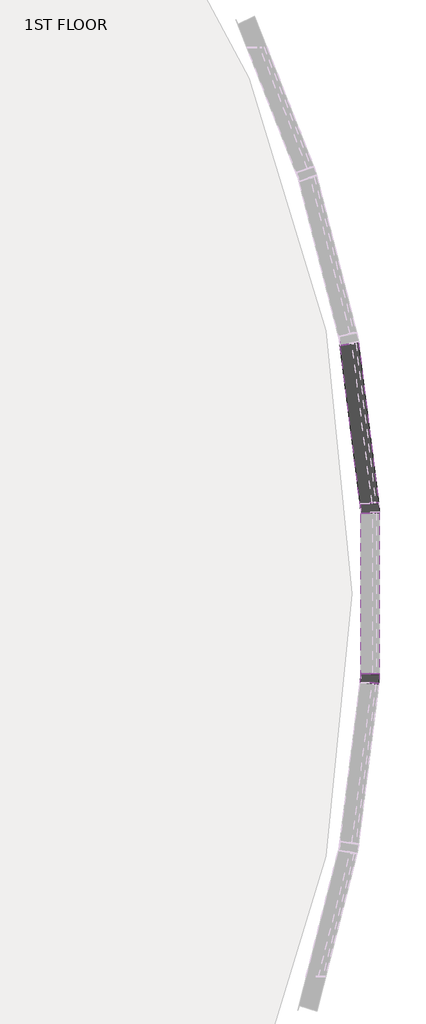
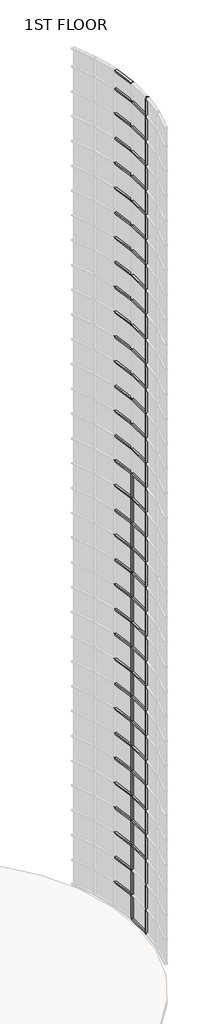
# One storey, part 15 of 17: 118 members.
"""IFC4 building model written with IfcOpenShell, lengths in millimetres."""

from ifc_helpers import new_model, si_unit, origin, place, context, project, spatial, transform, mapped, element, save
from components import member_56cb0dcd, member_0c249660, member_2b49869a, member_410c6227

model = new_model("IFC4")

# Units and contexts
model_context = context("Model", 3, world=origin())
ifc_project = project(units=[si_unit("LENGTHUNIT", "METRE", prefix="MILLI")], contexts=[model_context])

# Site, building, storey
site = spatial("IfcSite", under=ifc_project)
building = spatial("IfcBuilding", under=site)
storey = spatial("IfcBuildingStorey", under=building, Name="1ST FLOOR", Elevation=4572.0)

# Members
placement = place(None, origin())
member_shape = member_56cb0dcd(model_context)
element("IfcMember", 1, ObjectType="Rectangular Mullion : 2.5\" x 5\" rectangular", at=placement, inside=storey, context=model_context, shape_type="MappedRepresentation", body=[
    mapped(member_shape, transform((48251.7655333, 17531.7436786, 45720.0), x_axis=(0.0, 0.0, 1.0), y_axis=(-0.9922024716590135, -0.12463649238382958, 0.0), z_axis=(0.12463649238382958, -0.9922024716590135, 0.0))),
])
element("IfcMember", 2, ObjectType="Rectangular Mullion : 2.5\" x 5\" rectangular", at=placement, inside=storey, context=model_context, shape_type="MappedRepresentation", body=[
    mapped(member_shape, transform((48255.7227419, 17468.4912502, 4572.0), x_axis=(0.0, 0.0, -1.0), y_axis=(-1.0, 0.0, 0.0), z_axis=(0.0, 1.0, 0.0))),
])
member_2_shape = member_0c249660(model_context)
element("IfcMember", 3, ObjectType="Rectangular Mullion : 2.5\" x 5\" rectangular", at=placement, inside=storey, context=model_context, shape_type="MappedRepresentation", body=[
    mapped(member_2_shape, transform((48251.7655333, 17531.7436786, 5791.2), x_axis=(0.0, 0.0, 1.0), y_axis=(-0.9922024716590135, -0.12463649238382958, 0.0), z_axis=(0.12463649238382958, -0.9922024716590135, 0.0))),
])
element("IfcMember", 4, ObjectType="Rectangular Mullion : 2.5\" x 5\" rectangular", at=placement, inside=storey, context=model_context, shape_type="MappedRepresentation", body=[
    mapped(member_2_shape, transform((48251.7655333, 17531.7436786, 7010.4), x_axis=(0.0, 0.0, 1.0), y_axis=(-0.9922024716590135, -0.12463649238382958, 0.0), z_axis=(0.12463649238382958, -0.9922024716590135, 0.0))),
])
element("IfcMember", 5, ObjectType="Rectangular Mullion : 2.5\" x 5\" rectangular", at=placement, inside=storey, context=model_context, shape_type="MappedRepresentation", body=[
    mapped(member_2_shape, transform((48251.7655333, 17531.7436786, 8229.6), x_axis=(0.0, 0.0, 1.0), y_axis=(-0.9922024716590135, -0.12463649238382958, 0.0), z_axis=(0.12463649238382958, -0.9922024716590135, 0.0))),
])
element("IfcMember", 6, ObjectType="Rectangular Mullion : 2.5\" x 5\" rectangular", at=placement, inside=storey, context=model_context, shape_type="MappedRepresentation", body=[
    mapped(member_2_shape, transform((48255.7227419, 16370.6587498, 8229.6), x_axis=(0.0, 0.0, 1.0), y_axis=(-1.0, 0.0, 0.0), z_axis=(0.0, -1.0, 0.0))),
])
element("IfcMember", 7, ObjectType="Rectangular Mullion : 2.5\" x 5\" rectangular", at=placement, inside=storey, context=model_context, shape_type="MappedRepresentation", body=[
    mapped(member_2_shape, transform((48251.7655333, 17531.7436786, 9448.8), x_axis=(0.0, 0.0, 1.0), y_axis=(-0.9922024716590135, -0.12463649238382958, 0.0), z_axis=(0.12463649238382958, -0.9922024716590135, 0.0))),
])
element("IfcMember", 8, ObjectType="Rectangular Mullion : 2.5\" x 5\" rectangular", at=placement, inside=storey, context=model_context, shape_type="MappedRepresentation", body=[
    mapped(member_2_shape, transform((48255.7227419, 16370.6587498, 9448.8), x_axis=(0.0, 0.0, 1.0), y_axis=(-1.0, 0.0, 0.0), z_axis=(0.0, -1.0, 0.0))),
])
element("IfcMember", 9, ObjectType="Rectangular Mullion : 2.5\" x 5\" rectangular", at=placement, inside=storey, context=model_context, shape_type="MappedRepresentation", body=[
    mapped(member_2_shape, transform((48251.7655333, 17531.7436786, 10668.0), x_axis=(0.0, 0.0, 1.0), y_axis=(-0.9922024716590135, -0.12463649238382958, 0.0), z_axis=(0.12463649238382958, -0.9922024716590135, 0.0))),
])
element("IfcMember", 10, ObjectType="Rectangular Mullion : 2.5\" x 5\" rectangular", at=placement, inside=storey, context=model_context, shape_type="MappedRepresentation", body=[
    mapped(member_2_shape, transform((48255.7227419, 16370.6587498, 10668.0), x_axis=(0.0, 0.0, 1.0), y_axis=(-1.0, 0.0, 0.0), z_axis=(0.0, -1.0, 0.0))),
])
element("IfcMember", 11, ObjectType="Rectangular Mullion : 2.5\" x 5\" rectangular", at=placement, inside=storey, context=model_context, shape_type="MappedRepresentation", body=[
    mapped(member_2_shape, transform((48251.7655333, 17531.7436786, 11887.2), x_axis=(0.0, 0.0, 1.0), y_axis=(-0.9922024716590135, -0.12463649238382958, 0.0), z_axis=(0.12463649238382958, -0.9922024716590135, 0.0))),
])
element("IfcMember", 12, ObjectType="Rectangular Mullion : 2.5\" x 5\" rectangular", at=placement, inside=storey, context=model_context, shape_type="MappedRepresentation", body=[
    mapped(member_2_shape, transform((48255.7227419, 16370.6587498, 11887.2), x_axis=(0.0, 0.0, 1.0), y_axis=(-1.0, 0.0, 0.0), z_axis=(0.0, -1.0, 0.0))),
])
element("IfcMember", 13, ObjectType="Rectangular Mullion : 2.5\" x 5\" rectangular", at=placement, inside=storey, context=model_context, shape_type="MappedRepresentation", body=[
    mapped(member_2_shape, transform((48251.7655333, 17531.7436786, 13106.4), x_axis=(0.0, 0.0, 1.0), y_axis=(-0.9922024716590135, -0.12463649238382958, 0.0), z_axis=(0.12463649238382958, -0.9922024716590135, 0.0))),
])
element("IfcMember", 14, ObjectType="Rectangular Mullion : 2.5\" x 5\" rectangular", at=placement, inside=storey, context=model_context, shape_type="MappedRepresentation", body=[
    mapped(member_2_shape, transform((48255.7227419, 16370.6587498, 13106.4), x_axis=(0.0, 0.0, 1.0), y_axis=(-1.0, 0.0, 0.0), z_axis=(0.0, -1.0, 0.0))),
])
element("IfcMember", 15, ObjectType="Rectangular Mullion : 2.5\" x 5\" rectangular", at=placement, inside=storey, context=model_context, shape_type="MappedRepresentation", body=[
    mapped(member_2_shape, transform((48251.7655333, 17531.7436786, 14325.6), x_axis=(0.0, 0.0, 1.0), y_axis=(-0.9922024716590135, -0.12463649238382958, 0.0), z_axis=(0.12463649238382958, -0.9922024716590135, 0.0))),
])
element("IfcMember", 16, ObjectType="Rectangular Mullion : 2.5\" x 5\" rectangular", at=placement, inside=storey, context=model_context, shape_type="MappedRepresentation", body=[
    mapped(member_2_shape, transform((48255.7227419, 16370.6587498, 14325.6), x_axis=(0.0, 0.0, 1.0), y_axis=(-1.0, 0.0, 0.0), z_axis=(0.0, -1.0, 0.0))),
])
element("IfcMember", 17, ObjectType="Rectangular Mullion : 2.5\" x 5\" rectangular", at=placement, inside=storey, context=model_context, shape_type="MappedRepresentation", body=[
    mapped(member_2_shape, transform((48251.7655333, 17531.7436786, 15544.8), x_axis=(0.0, 0.0, 1.0), y_axis=(-0.9922024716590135, -0.12463649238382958, 0.0), z_axis=(0.12463649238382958, -0.9922024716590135, 0.0))),
])
element("IfcMember", 18, ObjectType="Rectangular Mullion : 2.5\" x 5\" rectangular", at=placement, inside=storey, context=model_context, shape_type="MappedRepresentation", body=[
    mapped(member_2_shape, transform((48255.7227419, 16370.6587498, 15544.8), x_axis=(0.0, 0.0, 1.0), y_axis=(-1.0, 0.0, 0.0), z_axis=(0.0, -1.0, 0.0))),
])
element("IfcMember", 19, ObjectType="Rectangular Mullion : 2.5\" x 5\" rectangular", at=placement, inside=storey, context=model_context, shape_type="MappedRepresentation", body=[
    mapped(member_2_shape, transform((48251.7655333, 17531.7436786, 16764.0), x_axis=(0.0, 0.0, 1.0), y_axis=(-0.9922024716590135, -0.12463649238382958, 0.0), z_axis=(0.12463649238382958, -0.9922024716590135, 0.0))),
])
element("IfcMember", 20, ObjectType="Rectangular Mullion : 2.5\" x 5\" rectangular", at=placement, inside=storey, context=model_context, shape_type="MappedRepresentation", body=[
    mapped(member_2_shape, transform((48255.7227419, 16370.6587498, 16764.0), x_axis=(0.0, 0.0, 1.0), y_axis=(-1.0, 0.0, 0.0), z_axis=(0.0, -1.0, 0.0))),
])
element("IfcMember", 21, ObjectType="Rectangular Mullion : 2.5\" x 5\" rectangular", at=placement, inside=storey, context=model_context, shape_type="MappedRepresentation", body=[
    mapped(member_2_shape, transform((48251.7655333, 17531.7436786, 17983.2), x_axis=(0.0, 0.0, 1.0), y_axis=(-0.9922024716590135, -0.12463649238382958, 0.0), z_axis=(0.12463649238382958, -0.9922024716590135, 0.0))),
])
element("IfcMember", 22, ObjectType="Rectangular Mullion : 2.5\" x 5\" rectangular", at=placement, inside=storey, context=model_context, shape_type="MappedRepresentation", body=[
    mapped(member_2_shape, transform((48255.7227419, 16370.6587498, 17983.2), x_axis=(0.0, 0.0, 1.0), y_axis=(-1.0, 0.0, 0.0), z_axis=(0.0, -1.0, 0.0))),
])
element("IfcMember", 23, ObjectType="Rectangular Mullion : 2.5\" x 5\" rectangular", at=placement, inside=storey, context=model_context, shape_type="MappedRepresentation", body=[
    mapped(member_2_shape, transform((48251.7655333, 17531.7436786, 19202.4), x_axis=(0.0, 0.0, 1.0), y_axis=(-0.9922024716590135, -0.12463649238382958, 0.0), z_axis=(0.12463649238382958, -0.9922024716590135, 0.0))),
])
element("IfcMember", 24, ObjectType="Rectangular Mullion : 2.5\" x 5\" rectangular", at=placement, inside=storey, context=model_context, shape_type="MappedRepresentation", body=[
    mapped(member_2_shape, transform((48255.7227419, 16370.6587498, 19202.4), x_axis=(0.0, 0.0, 1.0), y_axis=(-1.0, 0.0, 0.0), z_axis=(0.0, -1.0, 0.0))),
])
element("IfcMember", 25, ObjectType="Rectangular Mullion : 2.5\" x 5\" rectangular", at=placement, inside=storey, context=model_context, shape_type="MappedRepresentation", body=[
    mapped(member_2_shape, transform((48251.7655333, 17531.7436786, 20421.6), x_axis=(0.0, 0.0, 1.0), y_axis=(-0.9922024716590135, -0.12463649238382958, 0.0), z_axis=(0.12463649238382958, -0.9922024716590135, 0.0))),
])
element("IfcMember", 26, ObjectType="Rectangular Mullion : 2.5\" x 5\" rectangular", at=placement, inside=storey, context=model_context, shape_type="MappedRepresentation", body=[
    mapped(member_2_shape, transform((48255.7227419, 16370.6587498, 20421.6), x_axis=(0.0, 0.0, 1.0), y_axis=(-1.0, 0.0, 0.0), z_axis=(0.0, -1.0, 0.0))),
])
element("IfcMember", 27, ObjectType="Rectangular Mullion : 2.5\" x 5\" rectangular", at=placement, inside=storey, context=model_context, shape_type="MappedRepresentation", body=[
    mapped(member_2_shape, transform((48251.7655333, 17531.7436786, 21640.8), x_axis=(0.0, 0.0, 1.0), y_axis=(-0.9922024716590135, -0.12463649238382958, 0.0), z_axis=(0.12463649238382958, -0.9922024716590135, 0.0))),
])
element("IfcMember", 28, ObjectType="Rectangular Mullion : 2.5\" x 5\" rectangular", at=placement, inside=storey, context=model_context, shape_type="MappedRepresentation", body=[
    mapped(member_2_shape, transform((48255.7227419, 16370.6587498, 21640.8), x_axis=(0.0, 0.0, 1.0), y_axis=(-1.0, 0.0, 0.0), z_axis=(0.0, -1.0, 0.0))),
])
element("IfcMember", 29, ObjectType="Rectangular Mullion : 2.5\" x 5\" rectangular", at=placement, inside=storey, context=model_context, shape_type="MappedRepresentation", body=[
    mapped(member_2_shape, transform((48251.7655333, 17531.7436786, 22860.0), x_axis=(0.0, 0.0, 1.0), y_axis=(-0.9922024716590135, -0.12463649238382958, 0.0), z_axis=(0.12463649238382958, -0.9922024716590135, 0.0))),
])
element("IfcMember", 30, ObjectType="Rectangular Mullion : 2.5\" x 5\" rectangular", at=placement, inside=storey, context=model_context, shape_type="MappedRepresentation", body=[
    mapped(member_2_shape, transform((48255.7227419, 16370.6587498, 22860.0), x_axis=(0.0, 0.0, 1.0), y_axis=(-1.0, 0.0, 0.0), z_axis=(0.0, -1.0, 0.0))),
])
element("IfcMember", 31, ObjectType="Rectangular Mullion : 2.5\" x 5\" rectangular", at=placement, inside=storey, context=model_context, shape_type="MappedRepresentation", body=[
    mapped(member_2_shape, transform((48251.7655333, 17531.7436786, 24079.2), x_axis=(0.0, 0.0, 1.0), y_axis=(-0.9922024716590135, -0.12463649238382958, 0.0), z_axis=(0.12463649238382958, -0.9922024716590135, 0.0))),
])
element("IfcMember", 32, ObjectType="Rectangular Mullion : 2.5\" x 5\" rectangular", at=placement, inside=storey, context=model_context, shape_type="MappedRepresentation", body=[
    mapped(member_2_shape, transform((48255.7227419, 16370.6587498, 24079.2), x_axis=(0.0, 0.0, 1.0), y_axis=(-1.0, 0.0, 0.0), z_axis=(0.0, -1.0, 0.0))),
])
element("IfcMember", 33, ObjectType="Rectangular Mullion : 2.5\" x 5\" rectangular", at=placement, inside=storey, context=model_context, shape_type="MappedRepresentation", body=[
    mapped(member_2_shape, transform((48251.7655333, 17531.7436786, 25298.4), x_axis=(0.0, 0.0, 1.0), y_axis=(-0.9922024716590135, -0.12463649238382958, 0.0), z_axis=(0.12463649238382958, -0.9922024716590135, 0.0))),
])
element("IfcMember", 34, ObjectType="Rectangular Mullion : 2.5\" x 5\" rectangular", at=placement, inside=storey, context=model_context, shape_type="MappedRepresentation", body=[
    mapped(member_2_shape, transform((48255.7227419, 16370.6587498, 25298.4), x_axis=(0.0, 0.0, 1.0), y_axis=(-1.0, 0.0, 0.0), z_axis=(0.0, -1.0, 0.0))),
])
element("IfcMember", 35, ObjectType="Rectangular Mullion : 2.5\" x 5\" rectangular", at=placement, inside=storey, context=model_context, shape_type="MappedRepresentation", body=[
    mapped(member_2_shape, transform((48251.7655333, 17531.7436786, 26517.6), x_axis=(0.0, 0.0, 1.0), y_axis=(-0.9922024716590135, -0.12463649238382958, 0.0), z_axis=(0.12463649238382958, -0.9922024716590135, 0.0))),
])
element("IfcMember", 36, ObjectType="Rectangular Mullion : 2.5\" x 5\" rectangular", at=placement, inside=storey, context=model_context, shape_type="MappedRepresentation", body=[
    mapped(member_2_shape, transform((48255.7227419, 16370.6587498, 26517.6), x_axis=(0.0, 0.0, 1.0), y_axis=(-1.0, 0.0, 0.0), z_axis=(0.0, -1.0, 0.0))),
])
element("IfcMember", 37, ObjectType="Rectangular Mullion : 2.5\" x 5\" rectangular", at=placement, inside=storey, context=model_context, shape_type="MappedRepresentation", body=[
    mapped(member_2_shape, transform((48251.7655333, 17531.7436786, 27736.8), x_axis=(0.0, 0.0, 1.0), y_axis=(-0.9922024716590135, -0.12463649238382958, 0.0), z_axis=(0.12463649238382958, -0.9922024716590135, 0.0))),
])
element("IfcMember", 38, ObjectType="Rectangular Mullion : 2.5\" x 5\" rectangular", at=placement, inside=storey, context=model_context, shape_type="MappedRepresentation", body=[
    mapped(member_2_shape, transform((48255.7227419, 16370.6587498, 27736.8), x_axis=(0.0, 0.0, 1.0), y_axis=(-1.0, 0.0, 0.0), z_axis=(0.0, -1.0, 0.0))),
])
element("IfcMember", 39, ObjectType="Rectangular Mullion : 2.5\" x 5\" rectangular", at=placement, inside=storey, context=model_context, shape_type="MappedRepresentation", body=[
    mapped(member_2_shape, transform((48251.7655333, 17531.7436786, 28956.0), x_axis=(0.0, 0.0, 1.0), y_axis=(-0.9922024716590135, -0.12463649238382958, 0.0), z_axis=(0.12463649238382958, -0.9922024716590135, 0.0))),
])
element("IfcMember", 40, ObjectType="Rectangular Mullion : 2.5\" x 5\" rectangular", at=placement, inside=storey, context=model_context, shape_type="MappedRepresentation", body=[
    mapped(member_2_shape, transform((48255.7227419, 16370.6587498, 28956.0), x_axis=(0.0, 0.0, 1.0), y_axis=(-1.0, 0.0, 0.0), z_axis=(0.0, -1.0, 0.0))),
])
element("IfcMember", 41, ObjectType="Rectangular Mullion : 2.5\" x 5\" rectangular", at=placement, inside=storey, context=model_context, shape_type="MappedRepresentation", body=[
    mapped(member_2_shape, transform((48251.7655333, 17531.7436786, 30175.2), x_axis=(0.0, 0.0, 1.0), y_axis=(-0.9922024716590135, -0.12463649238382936, 0.0), z_axis=(0.12463649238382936, -0.9922024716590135, 0.0))),
])
element("IfcMember", 42, ObjectType="Rectangular Mullion : 2.5\" x 5\" rectangular", at=placement, inside=storey, context=model_context, shape_type="MappedRepresentation", body=[
    mapped(member_2_shape, transform((48255.7227419, 16370.6587498, 30175.2), x_axis=(0.0, 0.0, 1.0), y_axis=(-1.0, 0.0, 0.0), z_axis=(0.0, -1.0, 0.0))),
])
element("IfcMember", 43, ObjectType="Rectangular Mullion : 2.5\" x 5\" rectangular", at=placement, inside=storey, context=model_context, shape_type="MappedRepresentation", body=[
    mapped(member_2_shape, transform((48251.7655333, 17531.7436786, 31394.4), x_axis=(0.0, 0.0, 1.0), y_axis=(-0.9922024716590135, -0.12463649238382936, 0.0), z_axis=(0.12463649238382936, -0.9922024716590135, 0.0))),
])
element("IfcMember", 44, ObjectType="Rectangular Mullion : 2.5\" x 5\" rectangular", at=placement, inside=storey, context=model_context, shape_type="MappedRepresentation", body=[
    mapped(member_2_shape, transform((48255.7227419, 16370.6587498, 31394.4), x_axis=(0.0, 0.0, 1.0), y_axis=(-1.0, 0.0, 0.0), z_axis=(0.0, -1.0, 0.0))),
])
element("IfcMember", 45, ObjectType="Rectangular Mullion : 2.5\" x 5\" rectangular", at=placement, inside=storey, context=model_context, shape_type="MappedRepresentation", body=[
    mapped(member_2_shape, transform((48251.7655333, 17531.7436786, 32613.6), x_axis=(0.0, 0.0, 1.0), y_axis=(-0.9922024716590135, -0.12463649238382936, 0.0), z_axis=(0.12463649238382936, -0.9922024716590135, 0.0))),
])
element("IfcMember", 46, ObjectType="Rectangular Mullion : 2.5\" x 5\" rectangular", at=placement, inside=storey, context=model_context, shape_type="MappedRepresentation", body=[
    mapped(member_2_shape, transform((48255.7227419, 16370.6587498, 32613.6), x_axis=(0.0, 0.0, 1.0), y_axis=(-1.0, 0.0, 0.0), z_axis=(0.0, -1.0, 0.0))),
])
element("IfcMember", 47, ObjectType="Rectangular Mullion : 2.5\" x 5\" rectangular", at=placement, inside=storey, context=model_context, shape_type="MappedRepresentation", body=[
    mapped(member_2_shape, transform((48251.7655333, 17531.7436786, 33832.8), x_axis=(0.0, 0.0, 1.0), y_axis=(-0.9922024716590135, -0.12463649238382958, 0.0), z_axis=(0.12463649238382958, -0.9922024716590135, 0.0))),
])
element("IfcMember", 48, ObjectType="Rectangular Mullion : 2.5\" x 5\" rectangular", at=placement, inside=storey, context=model_context, shape_type="MappedRepresentation", body=[
    mapped(member_2_shape, transform((48255.7227419, 16370.6587498, 33832.8), x_axis=(0.0, 0.0, 1.0), y_axis=(-1.0, 0.0, 0.0), z_axis=(0.0, -1.0, 0.0))),
])
element("IfcMember", 49, ObjectType="Rectangular Mullion : 2.5\" x 5\" rectangular", at=placement, inside=storey, context=model_context, shape_type="MappedRepresentation", body=[
    mapped(member_2_shape, transform((48251.7655333, 17531.7436786, 35052.0), x_axis=(0.0, 0.0, 1.0), y_axis=(-0.9922024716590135, -0.12463649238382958, 0.0), z_axis=(0.12463649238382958, -0.9922024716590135, 0.0))),
])
element("IfcMember", 50, ObjectType="Rectangular Mullion : 2.5\" x 5\" rectangular", at=placement, inside=storey, context=model_context, shape_type="MappedRepresentation", body=[
    mapped(member_2_shape, transform((48255.7227419, 16370.6587498, 35052.0), x_axis=(0.0, 0.0, 1.0), y_axis=(-1.0, 0.0, 0.0), z_axis=(0.0, -1.0, 0.0))),
])
element("IfcMember", 51, ObjectType="Rectangular Mullion : 2.5\" x 5\" rectangular", at=placement, inside=storey, context=model_context, shape_type="MappedRepresentation", body=[
    mapped(member_2_shape, transform((48251.7655333, 17531.7436786, 36271.2), x_axis=(0.0, 0.0, 1.0), y_axis=(-0.9922024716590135, -0.12463649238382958, 0.0), z_axis=(0.12463649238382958, -0.9922024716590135, 0.0))),
])
element("IfcMember", 52, ObjectType="Rectangular Mullion : 2.5\" x 5\" rectangular", at=placement, inside=storey, context=model_context, shape_type="MappedRepresentation", body=[
    mapped(member_2_shape, transform((48255.7227419, 16370.6587498, 36271.2), x_axis=(0.0, 0.0, 1.0), y_axis=(-1.0, 0.0, 0.0), z_axis=(0.0, -1.0, 0.0))),
])
element("IfcMember", 53, ObjectType="Rectangular Mullion : 2.5\" x 5\" rectangular", at=placement, inside=storey, context=model_context, shape_type="MappedRepresentation", body=[
    mapped(member_2_shape, transform((48251.7655333, 17531.7436786, 37490.4), x_axis=(0.0, 0.0, 1.0), y_axis=(-0.9922024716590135, -0.12463649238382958, 0.0), z_axis=(0.12463649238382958, -0.9922024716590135, 0.0))),
])
element("IfcMember", 54, ObjectType="Rectangular Mullion : 2.5\" x 5\" rectangular", at=placement, inside=storey, context=model_context, shape_type="MappedRepresentation", body=[
    mapped(member_2_shape, transform((48255.7227419, 16370.6587498, 37490.4), x_axis=(0.0, 0.0, 1.0), y_axis=(-1.0, 0.0, 0.0), z_axis=(0.0, -1.0, 0.0))),
])
element("IfcMember", 55, ObjectType="Rectangular Mullion : 2.5\" x 5\" rectangular", at=placement, inside=storey, context=model_context, shape_type="MappedRepresentation", body=[
    mapped(member_2_shape, transform((48251.7655333, 17531.7436786, 38709.6), x_axis=(0.0, 0.0, 1.0), y_axis=(-0.9922024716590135, -0.12463649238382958, 0.0), z_axis=(0.12463649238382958, -0.9922024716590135, 0.0))),
])
element("IfcMember", 56, ObjectType="Rectangular Mullion : 2.5\" x 5\" rectangular", at=placement, inside=storey, context=model_context, shape_type="MappedRepresentation", body=[
    mapped(member_2_shape, transform((48255.7227419, 16370.6587498, 38709.6), x_axis=(0.0, 0.0, 1.0), y_axis=(-1.0, 0.0, 0.0), z_axis=(0.0, -1.0, 0.0))),
])
element("IfcMember", 57, ObjectType="Rectangular Mullion : 2.5\" x 5\" rectangular", at=placement, inside=storey, context=model_context, shape_type="MappedRepresentation", body=[
    mapped(member_2_shape, transform((48251.7655333, 17531.7436786, 39928.8), x_axis=(0.0, 0.0, 1.0), y_axis=(-0.9922024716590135, -0.12463649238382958, 0.0), z_axis=(0.12463649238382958, -0.9922024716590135, 0.0))),
])
element("IfcMember", 58, ObjectType="Rectangular Mullion : 2.5\" x 5\" rectangular", at=placement, inside=storey, context=model_context, shape_type="MappedRepresentation", body=[
    mapped(member_2_shape, transform((48255.7227419, 16370.6587498, 39928.8), x_axis=(0.0, 0.0, 1.0), y_axis=(-1.0, 0.0, 0.0), z_axis=(0.0, -1.0, 0.0))),
])
element("IfcMember", 59, ObjectType="Rectangular Mullion : 2.5\" x 5\" rectangular", at=placement, inside=storey, context=model_context, shape_type="MappedRepresentation", body=[
    mapped(member_2_shape, transform((48251.7655333, 17531.7436786, 41148.0), x_axis=(0.0, 0.0, 1.0), y_axis=(-0.9922024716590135, -0.12463649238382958, 0.0), z_axis=(0.12463649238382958, -0.9922024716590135, 0.0))),
])
element("IfcMember", 60, ObjectType="Rectangular Mullion : 2.5\" x 5\" rectangular", at=placement, inside=storey, context=model_context, shape_type="MappedRepresentation", body=[
    mapped(member_2_shape, transform((48255.7227419, 16370.6587498, 41148.0), x_axis=(0.0, 0.0, 1.0), y_axis=(-1.0, 0.0, 0.0), z_axis=(0.0, -1.0, 0.0))),
])
element("IfcMember", 61, ObjectType="Rectangular Mullion : 2.5\" x 5\" rectangular", at=placement, inside=storey, context=model_context, shape_type="MappedRepresentation", body=[
    mapped(member_2_shape, transform((48251.7655333, 17531.7436786, 42367.2), x_axis=(0.0, 0.0, 1.0), y_axis=(-0.9922024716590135, -0.12463649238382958, 0.0), z_axis=(0.12463649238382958, -0.9922024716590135, 0.0))),
])
element("IfcMember", 62, ObjectType="Rectangular Mullion : 2.5\" x 5\" rectangular", at=placement, inside=storey, context=model_context, shape_type="MappedRepresentation", body=[
    mapped(member_2_shape, transform((48255.7227419, 16370.6587498, 42367.2), x_axis=(0.0, 0.0, 1.0), y_axis=(-1.0, 0.0, 0.0), z_axis=(0.0, -1.0, 0.0))),
])
element("IfcMember", 63, ObjectType="Rectangular Mullion : 2.5\" x 5\" rectangular", at=placement, inside=storey, context=model_context, shape_type="MappedRepresentation", body=[
    mapped(member_2_shape, transform((48251.7655333, 17531.7436786, 43586.4), x_axis=(0.0, 0.0, 1.0), y_axis=(-0.9922024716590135, -0.12463649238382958, 0.0), z_axis=(0.12463649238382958, -0.9922024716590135, 0.0))),
])
element("IfcMember", 64, ObjectType="Rectangular Mullion : 2.5\" x 5\" rectangular", at=placement, inside=storey, context=model_context, shape_type="MappedRepresentation", body=[
    mapped(member_2_shape, transform((48255.7227419, 16370.6587498, 43586.4), x_axis=(0.0, 0.0, 1.0), y_axis=(-1.0, 0.0, 0.0), z_axis=(0.0, -1.0, 0.0))),
])
element("IfcMember", 65, ObjectType="Rectangular Mullion : 2.5\" x 5\" rectangular", at=placement, inside=storey, context=model_context, shape_type="MappedRepresentation", body=[
    mapped(member_2_shape, transform((48251.7655333, 17531.7436786, 44805.6), x_axis=(0.0, 0.0, 1.0), y_axis=(-0.9922024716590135, -0.12463649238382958, 0.0), z_axis=(0.12463649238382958, -0.9922024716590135, 0.0))),
])
element("IfcMember", 66, ObjectType="Rectangular Mullion : 2.5\" x 5\" rectangular", at=placement, inside=storey, context=model_context, shape_type="MappedRepresentation", body=[
    mapped(member_2_shape, transform((48255.7227419, 16370.6587498, 44805.6), x_axis=(0.0, 0.0, 1.0), y_axis=(-1.0, 0.0, 0.0), z_axis=(0.0, -1.0, 0.0))),
])
member_3_shape = member_2b49869a(model_context)
element("IfcMember", 67, ObjectType="Rectangular Mullion : 2.5\" x 5\" rectangular", at=placement, inside=storey, context=model_context, shape_type="MappedRepresentation", body=[
    mapped(member_3_shape, transform((48255.7227419, 17500.2412502, 4572.0), x_axis=(0.06244008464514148, -0.9980487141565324, 0.0), y_axis=(-0.9980487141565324, -0.06244008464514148, 0.0), z_axis=(0.0, 0.0, -1.0))),
])
element("IfcMember", 68, ObjectType="Rectangular Mullion : 2.5\" x 5\" rectangular", at=placement, inside=storey, context=model_context, shape_type="MappedRepresentation", body=[
    mapped(member_3_shape, transform((48255.7227419, 16338.9087498, 4572.0), x_axis=(-0.06244008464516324, -0.998048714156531, 0.0), y_axis=(-0.998048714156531, 0.06244008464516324, 0.0), z_axis=(0.0, 0.0, -1.0))),
])
element("IfcMember", 69, ObjectType="Rectangular Mullion : 2.5\" x 5\" rectangular", at=placement, inside=storey, context=model_context, shape_type="MappedRepresentation", body=[
    mapped(member_3_shape, transform((48255.7227419, 17500.2412502, 5791.2), x_axis=(0.06244008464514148, -0.9980487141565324, 0.0), y_axis=(-0.9980487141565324, -0.06244008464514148, 0.0), z_axis=(0.0, 0.0, -1.0))),
])
element("IfcMember", 70, ObjectType="Rectangular Mullion : 2.5\" x 5\" rectangular", at=placement, inside=storey, context=model_context, shape_type="MappedRepresentation", body=[
    mapped(member_3_shape, transform((48255.7227419, 16338.9087498, 5791.2), x_axis=(-0.06244008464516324, -0.998048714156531, 0.0), y_axis=(-0.998048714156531, 0.06244008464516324, 0.0), z_axis=(0.0, 0.0, -1.0))),
])
element("IfcMember", 71, ObjectType="Rectangular Mullion : 2.5\" x 5\" rectangular", at=placement, inside=storey, context=model_context, shape_type="MappedRepresentation", body=[
    mapped(member_3_shape, transform((48255.7227419, 17500.2412502, 7010.4), x_axis=(0.06244008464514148, -0.9980487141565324, 0.0), y_axis=(-0.9980487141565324, -0.06244008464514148, 0.0), z_axis=(0.0, 0.0, -1.0))),
])
element("IfcMember", 72, ObjectType="Rectangular Mullion : 2.5\" x 5\" rectangular", at=placement, inside=storey, context=model_context, shape_type="MappedRepresentation", body=[
    mapped(member_3_shape, transform((48255.7227419, 16338.9087498, 7010.4), x_axis=(-0.06244008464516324, -0.998048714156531, 0.0), y_axis=(-0.998048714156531, 0.06244008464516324, 0.0), z_axis=(0.0, 0.0, -1.0))),
])
element("IfcMember", 73, ObjectType="Rectangular Mullion : 2.5\" x 5\" rectangular", at=placement, inside=storey, context=model_context, shape_type="MappedRepresentation", body=[
    mapped(member_3_shape, transform((48255.7227419, 17500.2412502, 8229.6), x_axis=(0.06244008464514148, -0.9980487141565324, 0.0), y_axis=(-0.9980487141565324, -0.06244008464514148, 0.0), z_axis=(0.0, 0.0, -1.0))),
])
element("IfcMember", 74, ObjectType="Rectangular Mullion : 2.5\" x 5\" rectangular", at=placement, inside=storey, context=model_context, shape_type="MappedRepresentation", body=[
    mapped(member_3_shape, transform((48255.7227419, 16338.9087498, 8229.6), x_axis=(-0.062440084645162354, -0.9980487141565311, 0.0), y_axis=(-0.9980487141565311, 0.062440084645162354, 0.0), z_axis=(0.0, 0.0, -1.0))),
])
element("IfcMember", 75, ObjectType="Rectangular Mullion : 2.5\" x 5\" rectangular", at=placement, inside=storey, context=model_context, shape_type="MappedRepresentation", body=[
    mapped(member_3_shape, transform((48255.7227419, 17500.2412502, 9448.8), x_axis=(0.06244008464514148, -0.9980487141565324, 0.0), y_axis=(-0.9980487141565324, -0.06244008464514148, 0.0), z_axis=(0.0, 0.0, -1.0))),
])
element("IfcMember", 76, ObjectType="Rectangular Mullion : 2.5\" x 5\" rectangular", at=placement, inside=storey, context=model_context, shape_type="MappedRepresentation", body=[
    mapped(member_3_shape, transform((48255.7227419, 16338.9087498, 9448.8), x_axis=(-0.062440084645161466, -0.9980487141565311, 0.0), y_axis=(-0.9980487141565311, 0.062440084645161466, 0.0), z_axis=(0.0, 0.0, -1.0))),
])
element("IfcMember", 77, ObjectType="Rectangular Mullion : 2.5\" x 5\" rectangular", at=placement, inside=storey, context=model_context, shape_type="MappedRepresentation", body=[
    mapped(member_3_shape, transform((48255.7227419, 17500.2412502, 10668.0), x_axis=(0.06244008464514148, -0.9980487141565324, 0.0), y_axis=(-0.9980487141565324, -0.06244008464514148, 0.0), z_axis=(0.0, 0.0, -1.0))),
])
element("IfcMember", 78, ObjectType="Rectangular Mullion : 2.5\" x 5\" rectangular", at=placement, inside=storey, context=model_context, shape_type="MappedRepresentation", body=[
    mapped(member_3_shape, transform((48255.7227419, 16338.9087498, 10668.0), x_axis=(-0.062440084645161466, -0.9980487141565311, 0.0), y_axis=(-0.9980487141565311, 0.062440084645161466, 0.0), z_axis=(0.0, 0.0, -1.0))),
])
element("IfcMember", 79, ObjectType="Rectangular Mullion : 2.5\" x 5\" rectangular", at=placement, inside=storey, context=model_context, shape_type="MappedRepresentation", body=[
    mapped(member_3_shape, transform((48255.7227419, 17500.2412502, 11887.2), x_axis=(0.06244008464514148, -0.9980487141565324, 0.0), y_axis=(-0.9980487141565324, -0.06244008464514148, 0.0), z_axis=(0.0, 0.0, -1.0))),
])
element("IfcMember", 80, ObjectType="Rectangular Mullion : 2.5\" x 5\" rectangular", at=placement, inside=storey, context=model_context, shape_type="MappedRepresentation", body=[
    mapped(member_3_shape, transform((48255.7227419, 16338.9087498, 11887.2), x_axis=(-0.062440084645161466, -0.9980487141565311, 0.0), y_axis=(-0.9980487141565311, 0.062440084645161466, 0.0), z_axis=(0.0, 0.0, -1.0))),
])
element("IfcMember", 81, ObjectType="Rectangular Mullion : 2.5\" x 5\" rectangular", at=placement, inside=storey, context=model_context, shape_type="MappedRepresentation", body=[
    mapped(member_3_shape, transform((48255.7227419, 17500.2412502, 13106.4), x_axis=(0.06244008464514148, -0.9980487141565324, 0.0), y_axis=(-0.9980487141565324, -0.06244008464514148, 0.0), z_axis=(0.0, 0.0, -1.0))),
])
element("IfcMember", 82, ObjectType="Rectangular Mullion : 2.5\" x 5\" rectangular", at=placement, inside=storey, context=model_context, shape_type="MappedRepresentation", body=[
    mapped(member_3_shape, transform((48255.7227419, 16338.9087498, 13106.4), x_axis=(-0.062440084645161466, -0.9980487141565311, 0.0), y_axis=(-0.9980487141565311, 0.062440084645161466, 0.0), z_axis=(0.0, 0.0, -1.0))),
])
element("IfcMember", 83, ObjectType="Rectangular Mullion : 2.5\" x 5\" rectangular", at=placement, inside=storey, context=model_context, shape_type="MappedRepresentation", body=[
    mapped(member_3_shape, transform((48255.7227419, 17500.2412502, 14325.6), x_axis=(0.06244008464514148, -0.9980487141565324, 0.0), y_axis=(-0.9980487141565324, -0.06244008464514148, 0.0), z_axis=(0.0, 0.0, -1.0))),
])
element("IfcMember", 84, ObjectType="Rectangular Mullion : 2.5\" x 5\" rectangular", at=placement, inside=storey, context=model_context, shape_type="MappedRepresentation", body=[
    mapped(member_3_shape, transform((48255.7227419, 16338.9087498, 14325.6), x_axis=(-0.062440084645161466, -0.9980487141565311, 0.0), y_axis=(-0.9980487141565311, 0.062440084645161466, 0.0), z_axis=(0.0, 0.0, -1.0))),
])
element("IfcMember", 85, ObjectType="Rectangular Mullion : 2.5\" x 5\" rectangular", at=placement, inside=storey, context=model_context, shape_type="MappedRepresentation", body=[
    mapped(member_3_shape, transform((48255.7227419, 17500.2412502, 15544.8), x_axis=(0.06244008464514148, -0.9980487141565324, 0.0), y_axis=(-0.9980487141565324, -0.06244008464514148, 0.0), z_axis=(0.0, 0.0, -1.0))),
])
element("IfcMember", 86, ObjectType="Rectangular Mullion : 2.5\" x 5\" rectangular", at=placement, inside=storey, context=model_context, shape_type="MappedRepresentation", body=[
    mapped(member_3_shape, transform((48255.7227419, 16338.9087498, 15544.8), x_axis=(-0.062440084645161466, -0.9980487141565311, 0.0), y_axis=(-0.9980487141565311, 0.062440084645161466, 0.0), z_axis=(0.0, 0.0, -1.0))),
])
element("IfcMember", 87, ObjectType="Rectangular Mullion : 2.5\" x 5\" rectangular", at=placement, inside=storey, context=model_context, shape_type="MappedRepresentation", body=[
    mapped(member_3_shape, transform((48255.7227419, 17500.2412502, 16764.0), x_axis=(0.06244008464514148, -0.9980487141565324, 0.0), y_axis=(-0.9980487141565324, -0.06244008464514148, 0.0), z_axis=(0.0, 0.0, -1.0))),
])
element("IfcMember", 88, ObjectType="Rectangular Mullion : 2.5\" x 5\" rectangular", at=placement, inside=storey, context=model_context, shape_type="MappedRepresentation", body=[
    mapped(member_3_shape, transform((48255.7227419, 16338.9087498, 16764.0), x_axis=(-0.062440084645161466, -0.9980487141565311, 0.0), y_axis=(-0.9980487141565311, 0.062440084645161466, 0.0), z_axis=(0.0, 0.0, -1.0))),
])
element("IfcMember", 89, ObjectType="Rectangular Mullion : 2.5\" x 5\" rectangular", at=placement, inside=storey, context=model_context, shape_type="MappedRepresentation", body=[
    mapped(member_3_shape, transform((48255.7227419, 17500.2412502, 17983.2), x_axis=(0.062440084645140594, -0.9980487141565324, 0.0), y_axis=(-0.9980487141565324, -0.062440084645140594, 0.0), z_axis=(0.0, 0.0, -1.0))),
])
element("IfcMember", 90, ObjectType="Rectangular Mullion : 2.5\" x 5\" rectangular", at=placement, inside=storey, context=model_context, shape_type="MappedRepresentation", body=[
    mapped(member_3_shape, transform((48255.7227419, 16338.9087498, 17983.2), x_axis=(-0.062440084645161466, -0.9980487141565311, 0.0), y_axis=(-0.9980487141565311, 0.062440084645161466, 0.0), z_axis=(0.0, 0.0, -1.0))),
])
element("IfcMember", 91, ObjectType="Rectangular Mullion : 2.5\" x 5\" rectangular", at=placement, inside=storey, context=model_context, shape_type="MappedRepresentation", body=[
    mapped(member_3_shape, transform((48255.7227419, 17500.2412502, 19202.4), x_axis=(0.062440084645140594, -0.9980487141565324, 0.0), y_axis=(-0.9980487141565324, -0.062440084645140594, 0.0), z_axis=(0.0, 0.0, -1.0))),
])
element("IfcMember", 92, ObjectType="Rectangular Mullion : 2.5\" x 5\" rectangular", at=placement, inside=storey, context=model_context, shape_type="MappedRepresentation", body=[
    mapped(member_3_shape, transform((48255.7227419, 16338.9087498, 19202.4), x_axis=(-0.062440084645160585, -0.9980487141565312, 0.0), y_axis=(-0.9980487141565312, 0.062440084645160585, 0.0), z_axis=(0.0, 0.0, -1.0))),
])
element("IfcMember", 93, ObjectType="Rectangular Mullion : 2.5\" x 5\" rectangular", at=placement, inside=storey, context=model_context, shape_type="MappedRepresentation", body=[
    mapped(member_3_shape, transform((48255.7227419, 17500.2412502, 20421.6), x_axis=(0.06244008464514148, -0.9980487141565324, 0.0), y_axis=(-0.9980487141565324, -0.06244008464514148, 0.0), z_axis=(0.0, 0.0, -1.0))),
])
element("IfcMember", 94, ObjectType="Rectangular Mullion : 2.5\" x 5\" rectangular", at=placement, inside=storey, context=model_context, shape_type="MappedRepresentation", body=[
    mapped(member_3_shape, transform((48255.7227419, 16338.9087498, 20421.6), x_axis=(-0.062440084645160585, -0.9980487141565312, 0.0), y_axis=(-0.9980487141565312, 0.062440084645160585, 0.0), z_axis=(0.0, 0.0, -1.0))),
])
element("IfcMember", 95, ObjectType="Rectangular Mullion : 2.5\" x 5\" rectangular", at=placement, inside=storey, context=model_context, shape_type="MappedRepresentation", body=[
    mapped(member_3_shape, transform((48255.7227419, 17500.2412502, 21640.8), x_axis=(0.06244008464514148, -0.9980487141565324, 0.0), y_axis=(-0.9980487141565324, -0.06244008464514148, 0.0), z_axis=(0.0, 0.0, -1.0))),
])
element("IfcMember", 96, ObjectType="Rectangular Mullion : 2.5\" x 5\" rectangular", at=placement, inside=storey, context=model_context, shape_type="MappedRepresentation", body=[
    mapped(member_3_shape, transform((48255.7227419, 16338.9087498, 21640.8), x_axis=(-0.062440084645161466, -0.9980487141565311, 0.0), y_axis=(-0.9980487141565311, 0.062440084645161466, 0.0), z_axis=(0.0, 0.0, -1.0))),
])
element("IfcMember", 97, ObjectType="Rectangular Mullion : 2.5\" x 5\" rectangular", at=placement, inside=storey, context=model_context, shape_type="MappedRepresentation", body=[
    mapped(member_3_shape, transform((48255.7227419, 17500.2412502, 22860.0), x_axis=(0.062440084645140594, -0.9980487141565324, 0.0), y_axis=(-0.9980487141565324, -0.062440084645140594, 0.0), z_axis=(0.0, 0.0, -1.0))),
])
element("IfcMember", 98, ObjectType="Rectangular Mullion : 2.5\" x 5\" rectangular", at=placement, inside=storey, context=model_context, shape_type="MappedRepresentation", body=[
    mapped(member_3_shape, transform((48255.7227419, 16338.9087498, 22860.0), x_axis=(-0.062440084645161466, -0.9980487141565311, 0.0), y_axis=(-0.9980487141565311, 0.062440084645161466, 0.0), z_axis=(0.0, 0.0, -1.0))),
])
element("IfcMember", 99, ObjectType="Rectangular Mullion : 2.5\" x 5\" rectangular", at=placement, inside=storey, context=model_context, shape_type="MappedRepresentation", body=[
    mapped(member_3_shape, transform((48255.7227419, 17500.2412502, 24079.2), x_axis=(0.062440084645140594, -0.9980487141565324, 0.0), y_axis=(-0.9980487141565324, -0.062440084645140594, 0.0), z_axis=(0.0, 0.0, -1.0))),
])
element("IfcMember", 100, ObjectType="Rectangular Mullion : 2.5\" x 5\" rectangular", at=placement, inside=storey, context=model_context, shape_type="MappedRepresentation", body=[
    mapped(member_3_shape, transform((48255.7227419, 16338.9087498, 24079.2), x_axis=(-0.062440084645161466, -0.9980487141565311, 0.0), y_axis=(-0.9980487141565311, 0.062440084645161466, 0.0), z_axis=(0.0, 0.0, -1.0))),
])
element("IfcMember", 101, ObjectType="Rectangular Mullion : 2.5\" x 5\" rectangular", at=placement, inside=storey, context=model_context, shape_type="MappedRepresentation", body=[
    mapped(member_3_shape, transform((48255.7227419, 17500.2412502, 25298.4), x_axis=(0.062440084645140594, -0.9980487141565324, 0.0), y_axis=(-0.9980487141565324, -0.062440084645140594, 0.0), z_axis=(0.0, 0.0, -1.0))),
])
element("IfcMember", 102, ObjectType="Rectangular Mullion : 2.5\" x 5\" rectangular", at=placement, inside=storey, context=model_context, shape_type="MappedRepresentation", body=[
    mapped(member_3_shape, transform((48255.7227419, 16338.9087498, 25298.4), x_axis=(-0.062440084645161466, -0.9980487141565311, 0.0), y_axis=(-0.9980487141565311, 0.062440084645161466, 0.0), z_axis=(0.0, 0.0, -1.0))),
])
element("IfcMember", 103, ObjectType="Rectangular Mullion : 2.5\" x 5\" rectangular", at=placement, inside=storey, context=model_context, shape_type="MappedRepresentation", body=[
    mapped(member_3_shape, transform((48255.7227419, 16338.9087498, 26517.6), x_axis=(-0.062440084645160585, -0.9980487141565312, 0.0), y_axis=(-0.9980487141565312, 0.062440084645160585, 0.0), z_axis=(0.0, 0.0, -1.0))),
])
element("IfcMember", 104, ObjectType="Rectangular Mullion : 2.5\" x 5\" rectangular", at=placement, inside=storey, context=model_context, shape_type="MappedRepresentation", body=[
    mapped(member_3_shape, transform((48255.7227419, 16338.9087498, 27736.8), x_axis=(-0.062440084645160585, -0.9980487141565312, 0.0), y_axis=(-0.9980487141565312, 0.062440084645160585, 0.0), z_axis=(0.0, 0.0, -1.0))),
])
element("IfcMember", 105, ObjectType="Rectangular Mullion : 2.5\" x 5\" rectangular", at=placement, inside=storey, context=model_context, shape_type="MappedRepresentation", body=[
    mapped(member_3_shape, transform((48255.7227419, 16338.9087498, 28956.0), x_axis=(-0.062440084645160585, -0.9980487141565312, 0.0), y_axis=(-0.9980487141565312, 0.062440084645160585, 0.0), z_axis=(0.0, 0.0, -1.0))),
])
element("IfcMember", 106, ObjectType="Rectangular Mullion : 2.5\" x 5\" rectangular", at=placement, inside=storey, context=model_context, shape_type="MappedRepresentation", body=[
    mapped(member_3_shape, transform((48255.7227419, 16338.9087498, 30175.2), x_axis=(-0.062440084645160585, -0.9980487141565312, 0.0), y_axis=(-0.9980487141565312, 0.062440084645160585, 0.0), z_axis=(0.0, 0.0, -1.0))),
])
element("IfcMember", 107, ObjectType="Rectangular Mullion : 2.5\" x 5\" rectangular", at=placement, inside=storey, context=model_context, shape_type="MappedRepresentation", body=[
    mapped(member_3_shape, transform((48255.7227419, 16338.9087498, 31394.4), x_axis=(-0.062440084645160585, -0.9980487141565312, 0.0), y_axis=(-0.9980487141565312, 0.062440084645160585, 0.0), z_axis=(0.0, 0.0, -1.0))),
])
element("IfcMember", 108, ObjectType="Rectangular Mullion : 2.5\" x 5\" rectangular", at=placement, inside=storey, context=model_context, shape_type="MappedRepresentation", body=[
    mapped(member_3_shape, transform((48255.7227419, 16338.9087498, 32613.6), x_axis=(-0.062440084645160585, -0.9980487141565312, 0.0), y_axis=(-0.9980487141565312, 0.062440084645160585, 0.0), z_axis=(0.0, 0.0, -1.0))),
])
element("IfcMember", 109, ObjectType="Rectangular Mullion : 2.5\" x 5\" rectangular", at=placement, inside=storey, context=model_context, shape_type="MappedRepresentation", body=[
    mapped(member_3_shape, transform((48255.7227419, 16338.9087498, 33832.8), x_axis=(-0.062440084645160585, -0.9980487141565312, 0.0), y_axis=(-0.9980487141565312, 0.062440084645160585, 0.0), z_axis=(0.0, 0.0, -1.0))),
])
element("IfcMember", 110, ObjectType="Rectangular Mullion : 2.5\" x 5\" rectangular", at=placement, inside=storey, context=model_context, shape_type="MappedRepresentation", body=[
    mapped(member_3_shape, transform((48255.7227419, 16338.9087498, 35052.0), x_axis=(-0.062440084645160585, -0.9980487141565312, 0.0), y_axis=(-0.9980487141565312, 0.062440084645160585, 0.0), z_axis=(0.0, 0.0, -1.0))),
])
element("IfcMember", 111, ObjectType="Rectangular Mullion : 2.5\" x 5\" rectangular", at=placement, inside=storey, context=model_context, shape_type="MappedRepresentation", body=[
    mapped(member_3_shape, transform((48255.7227419, 16338.9087498, 36271.2), x_axis=(-0.062440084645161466, -0.9980487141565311, 0.0), y_axis=(-0.9980487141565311, 0.062440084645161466, 0.0), z_axis=(0.0, 0.0, -1.0))),
])
element("IfcMember", 112, ObjectType="Rectangular Mullion : 2.5\" x 5\" rectangular", at=placement, inside=storey, context=model_context, shape_type="MappedRepresentation", body=[
    mapped(member_3_shape, transform((48255.7227419, 16338.9087498, 37490.4), x_axis=(-0.062440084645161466, -0.9980487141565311, 0.0), y_axis=(-0.9980487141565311, 0.062440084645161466, 0.0), z_axis=(0.0, 0.0, -1.0))),
])
element("IfcMember", 113, ObjectType="Rectangular Mullion : 2.5\" x 5\" rectangular", at=placement, inside=storey, context=model_context, shape_type="MappedRepresentation", body=[
    mapped(member_3_shape, transform((48255.7227419, 16338.9087498, 38709.6), x_axis=(-0.062440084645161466, -0.9980487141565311, 0.0), y_axis=(-0.9980487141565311, 0.062440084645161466, 0.0), z_axis=(0.0, 0.0, -1.0))),
])
element("IfcMember", 114, ObjectType="Rectangular Mullion : 2.5\" x 5\" rectangular", at=placement, inside=storey, context=model_context, shape_type="MappedRepresentation", body=[
    mapped(member_3_shape, transform((48255.7227419, 16338.9087498, 39928.8), x_axis=(-0.062440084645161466, -0.9980487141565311, 0.0), y_axis=(-0.9980487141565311, 0.062440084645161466, 0.0), z_axis=(0.0, 0.0, -1.0))),
])
element("IfcMember", 115, ObjectType="Rectangular Mullion : 2.5\" x 5\" rectangular", at=placement, inside=storey, context=model_context, shape_type="MappedRepresentation", body=[
    mapped(member_3_shape, transform((48255.7227419, 16338.9087498, 41148.0), x_axis=(-0.062440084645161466, -0.9980487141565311, 0.0), y_axis=(-0.9980487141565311, 0.062440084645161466, 0.0), z_axis=(0.0, 0.0, -1.0))),
])
element("IfcMember", 116, ObjectType="Rectangular Mullion : 2.5\" x 5\" rectangular", at=placement, inside=storey, context=model_context, shape_type="MappedRepresentation", body=[
    mapped(member_3_shape, transform((48255.7227419, 16338.9087498, 42367.2), x_axis=(-0.062440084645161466, -0.9980487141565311, 0.0), y_axis=(-0.9980487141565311, 0.062440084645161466, 0.0), z_axis=(0.0, 0.0, -1.0))),
])
element("IfcMember", 117, ObjectType="Rectangular Mullion : 2.5\" x 5\" rectangular", at=placement, inside=storey, context=model_context, shape_type="MappedRepresentation", body=[
    mapped(member_3_shape, transform((48255.7227419, 16338.9087498, 43586.4), x_axis=(-0.062440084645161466, -0.9980487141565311, 0.0), y_axis=(-0.9980487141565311, 0.062440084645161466, 0.0), z_axis=(0.0, 0.0, -1.0))),
])
member_4_shape = member_410c6227(model_context)
element("IfcMember", 118, ObjectType="Rectangular Mullion : 2.5\" x 5\" rectangular", at=placement, inside=storey, context=model_context, shape_type="MappedRepresentation", body=[
    mapped(member_4_shape, transform((48255.7227419, 16338.9087498, 44805.6), x_axis=(-0.062440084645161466, -0.9980487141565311, 0.0), y_axis=(-0.9980487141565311, 0.062440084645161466, 0.0), z_axis=(0.0, 0.0, -1.0))),
])

save(model, "model.ifc")
